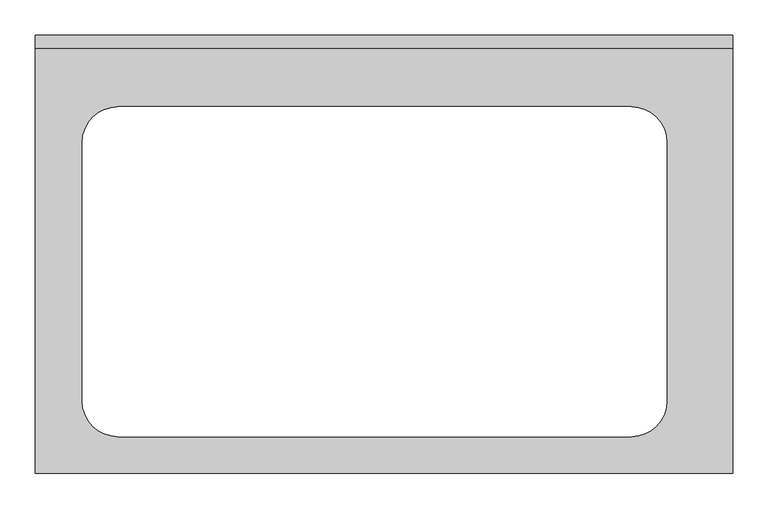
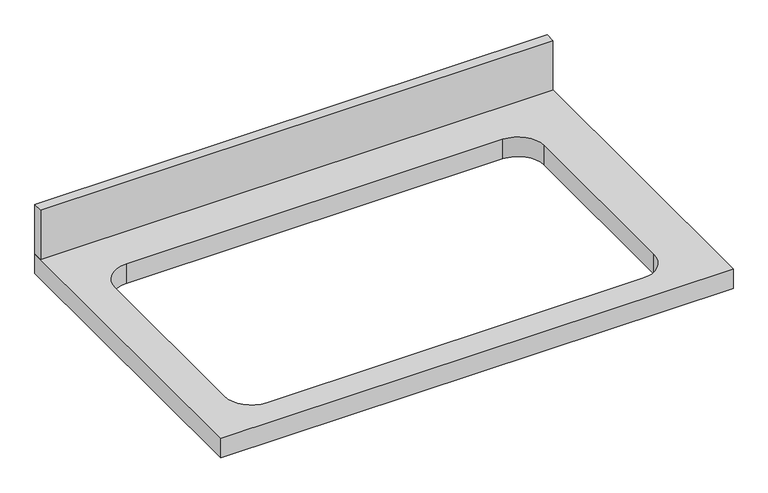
"""IFC4 building model written with IfcOpenShell, lengths in millimetres: furniture geometry, 流理台面 (1)-方型孔 : 600mm 深."""

from ifc_helpers import new_model, si_unit, point, frame, frame_2d, origin, place, context, project, spatial, polyline, circle_curve, trimmed, segment, composite_curve, outline, extrude, source, transform, mapped, element, save


def furniture_4e1ab37b(model_context):
    return source(origin(), model_context, "Body", "SweptSolid", [
        extrude(outline(polyline([(-1268.7247951, 0.0), (-274.7881364, 0.0), (-274.7881364, -19.05), (-1268.7247951, -19.05), (-1268.7247951, 0.0)])), frame((0.0, 0.0, 750.0), z_axis=(0.0, 0.0, 1.0), x_axis=(1.0, 0.0, 0.0)), (0.0, 0.0, 1.0), 101.6),
        extrude(outline(polyline([(-274.7881364, 0.0), (-274.7881364, -625.0), (-1268.7247951, -625.0), (-1268.7247951, 0.0), (-274.7881364, 0.0)]), holes=[composite_curve([segment(trimmed(circle_curve(frame_2d((-1150.6881364, -153.1)), 50.8), [point((-1150.6881364, -102.3))], [point((-1201.4881364, -153.1))], True, "CARTESIAN"), True, "CONTINUOUS"), segment(polyline([(-1201.4881364, -153.1), (-1201.4881364, -521.9)]), True, "CONTINUOUS"), segment(trimmed(circle_curve(frame_2d((-1150.6881364, -521.9)), 50.8), [point((-1201.4881364, -521.9))], [point((-1150.6881364, -572.7))], True, "CARTESIAN"), True, "CONTINUOUS"), segment(polyline([(-1150.6881364, -572.7), (-419.7660005, -572.7)]), True, "CONTINUOUS"), segment(trimmed(circle_curve(frame_2d((-419.7660005, -521.9)), 50.8), [point((-419.7660005, -572.7))], [point((-368.9660005, -521.9))], True, "CARTESIAN"), True, "CONTINUOUS"), segment(polyline([(-368.9660005, -521.9), (-368.9660005, -153.1)]), True, "CONTINUOUS"), segment(trimmed(circle_curve(frame_2d((-419.7660005, -153.1)), 50.8), [point((-368.9660005, -153.1))], [point((-419.7660005, -102.3))], True, "CARTESIAN"), True, "CONTINUOUS"), segment(polyline([(-419.7660005, -102.3), (-1150.6881364, -102.3)]), True, "CONTINUOUS")], self_intersect=False)]), frame((0.0, 0.0, 710.0), z_axis=(0.0, 0.0, 1.0), x_axis=(1.0, 0.0, 0.0)), (0.0, 0.0, 1.0), 40.0),
    ])


if __name__ == "__main__":
    model = new_model("IFC4")
    model_context = context("Model", 3, world=origin())
    ifc_project = project(units=[si_unit("LENGTHUNIT", "METRE", prefix="MILLI")], contexts=[model_context])
    site = spatial("IfcSite", under=ifc_project)
    building = spatial("IfcBuilding", under=site)
    placement = place(None, origin())
    furniture_shape = furniture_4e1ab37b(model_context)
    element("IfcFurniture", 1, ObjectType="流理台面 (1)-方型孔 : 600mm 深", at=placement, inside=building, context=model_context, shape_type="MappedRepresentation", body=[
        mapped(furniture_shape, transform((0.0, 0.0, 0.0), x_axis=(1.0, 0.0, 0.0), y_axis=(0.0, 1.0, 0.0), z_axis=(0.0, 0.0, 1.0))),
    ])
    save(model, "model.ifc")
